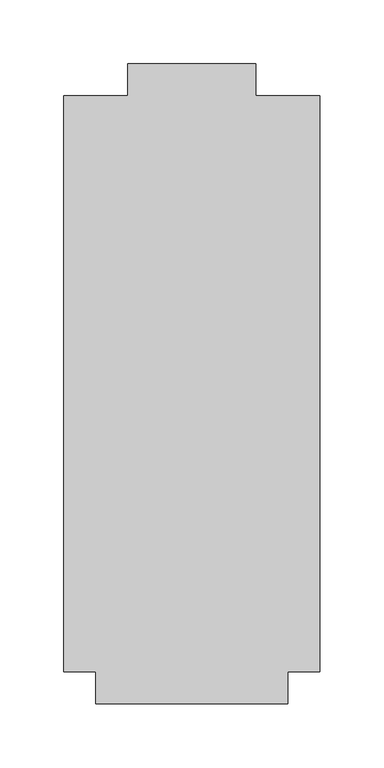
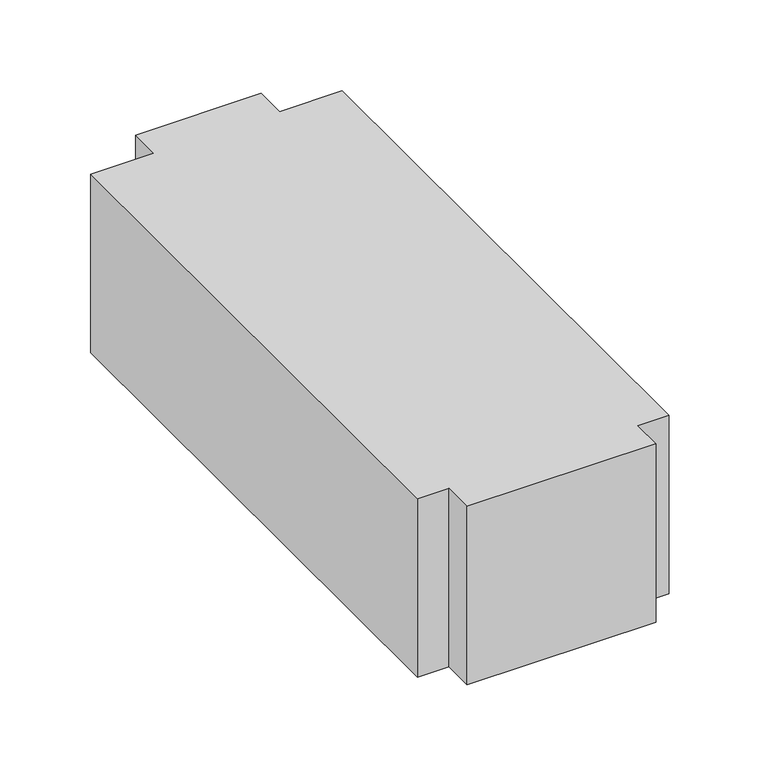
"""IFC4 building model written with IfcOpenShell, lengths in millimetres: duct fitting geometry, M_Cruz rectangular : Estándar."""

from ifc_helpers import new_model, si_unit, frame, origin, place, context, project, spatial, polyline, outline, extrude, source, transform, mapped, element, save


def duct_fitting_d6e42adc(model_context):
    return source(origin(), model_context, "Body", "SweptSolid", [
        extrude(outline(polyline([(75.0, -250.0), (-75.0, -250.0), (-75.0, -225.0), (-100.0, -225.0), (-100.0, 225.0), (-50.0, 225.0), (-50.0, 250.0), (50.0, 250.0), (50.0, 225.0), (100.0, 225.0), (100.0, -225.0), (75.0, -225.0), (75.0, -250.0)])), frame((0.0, 0.0, -75.0), z_axis=(0.0, 0.0, 1.0), x_axis=(1.0, 0.0, 0.0)), (0.0, 0.0, 1.0), 150.0),
    ])


if __name__ == "__main__":
    model = new_model("IFC4")
    model_context = context("Model", 3, world=origin())
    ifc_project = project(units=[si_unit("LENGTHUNIT", "METRE", prefix="MILLI")], contexts=[model_context])
    site = spatial("IfcSite", under=ifc_project)
    building = spatial("IfcBuilding", under=site)
    placement = place(None, origin())
    duct_fitting_shape = duct_fitting_d6e42adc(model_context)
    element("IfcDuctFitting", 1, ObjectType="M_Cruz rectangular : Estándar", at=placement, inside=building, context=model_context, shape_type="MappedRepresentation", body=[
        mapped(duct_fitting_shape, transform((0.0, 0.0, 0.0), x_axis=(1.0, 0.0, 0.0), y_axis=(0.0, 1.0, 0.0), z_axis=(0.0, 0.0, 1.0))),
    ])
    save(model, "model.ifc")
